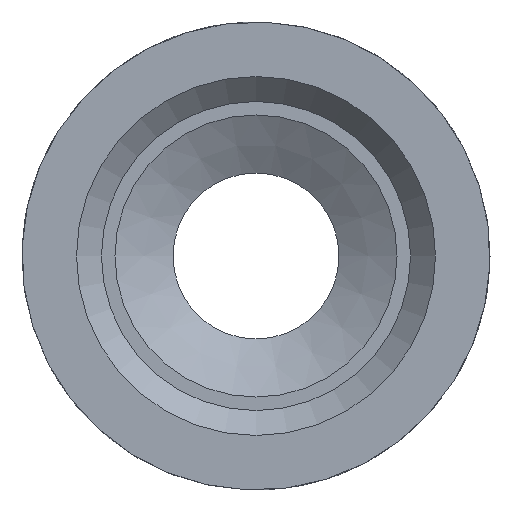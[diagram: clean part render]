
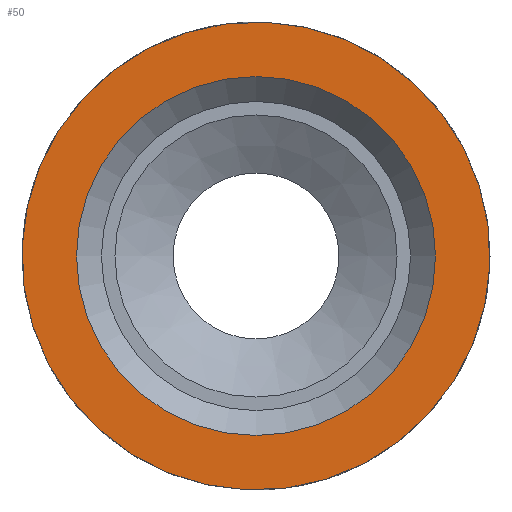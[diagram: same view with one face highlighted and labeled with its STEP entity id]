
A CAD part, front view. The second image highlights one B-rep face of the part: STEP entity #50.
In plain terms, the highlighted planar face has unit normal (0, -1, 0).
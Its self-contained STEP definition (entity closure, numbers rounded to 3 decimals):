
#50=ADVANCED_FACE('',(#166,#168),#170,.T.);
#166=FACE_BOUND('',#167,.T.);
#167=EDGE_LOOP('',(#806));
#168=FACE_BOUND('',#169,.T.);
#169=EDGE_LOOP('',(#807));
#170=PLANE('',#171);
#171=AXIS2_PLACEMENT_3D('',#172,#173,#174);
#172=CARTESIAN_POINT('',(0.,-19.2,0.));
#173=DIRECTION('',(0.,-1.,0.));
#174=DIRECTION('',(-1.,0.,0.));
#806=ORIENTED_EDGE('',*,*,#999,.T.);
#807=ORIENTED_EDGE('',*,*,#1000,.T.);
#999=EDGE_CURVE('',#1107,#1107,#1108,.T.);
#1000=EDGE_CURVE('',#1109,#1109,#1110,.F.);
#1107=VERTEX_POINT('',#1314);
#1108=CIRCLE('',#1315,14.1);
#1109=VERTEX_POINT('',#1319);
#1110=CIRCLE('',#1320,10.816);
#1314=CARTESIAN_POINT('',(-12.5,-19.2,-6.524));
#1315=AXIS2_PLACEMENT_3D('',#1316,#1317,#1318);
#1316=CARTESIAN_POINT('',(0.,-19.2,0.));
#1317=DIRECTION('',(0.,-1.,0.));
#1318=DIRECTION('',(-1.,0.,0.));
#1319=CARTESIAN_POINT('',(0.,-19.2,10.816));
#1320=AXIS2_PLACEMENT_3D('',#1321,#1322,#1323);
#1321=CARTESIAN_POINT('',(0.,-19.2,0.));
#1322=DIRECTION('',(0.,-1.,0.));
#1323=DIRECTION('',(0.,0.,1.));
